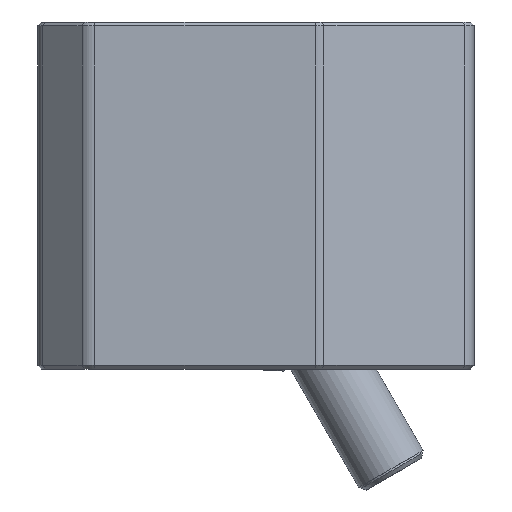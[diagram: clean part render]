
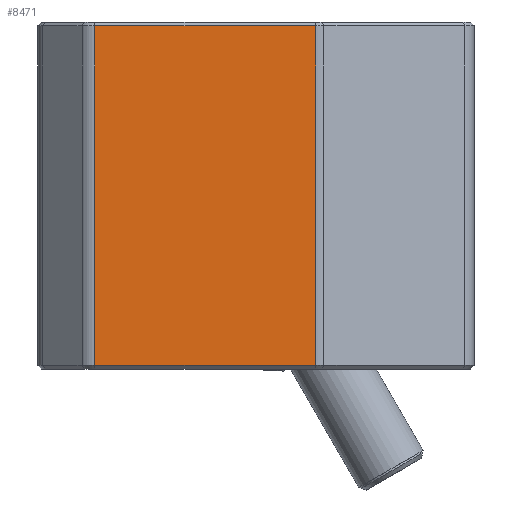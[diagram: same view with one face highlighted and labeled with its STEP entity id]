
A CAD part, left-side view. The second image highlights one B-rep face of the part: STEP entity #8471.
In plain terms, the highlighted planar face has unit normal (-1, 0, 0).
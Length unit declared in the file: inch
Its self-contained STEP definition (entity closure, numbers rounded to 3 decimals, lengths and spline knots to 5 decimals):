
#1490=CARTESIAN_POINT('',(36.81395,-12.63657,-6.884));
#1491=VERTEX_POINT('',#1490);
#1492=CARTESIAN_POINT('',(36.81395,-12.63657,-5.172));
#1493=VERTEX_POINT('',#1492);
#1494=CARTESIAN_POINT('',(36.81395,-12.63657,-6.884));
#1495=DIRECTION('',(0.0,0.0,1.0));
#1496=VECTOR('',#1495,1.712);
#1497=LINE('',#1494,#1496);
#1498=EDGE_CURVE('',#1491,#1493,#1497,.T.);
#2041=CARTESIAN_POINT('',(36.81395,-11.52191,-6.884));
#2042=VERTEX_POINT('',#2041);
#2043=CARTESIAN_POINT('',(36.81395,-12.63657,-6.884));
#2044=DIRECTION('',(0.0,1.0,0.0));
#2045=VECTOR('',#2044,1.11466);
#2046=LINE('',#2043,#2045);
#2047=EDGE_CURVE('',#1491,#2042,#2046,.T.);
#7686=CARTESIAN_POINT('',(36.81395,-11.52191,-5.172));
#7687=VERTEX_POINT('',#7686);
#7694=CARTESIAN_POINT('',(36.81395,-11.52191,-5.172));
#7695=DIRECTION('',(0.0,-1.0,0.0));
#7696=VECTOR('',#7695,1.11466);
#7697=LINE('',#7694,#7696);
#7698=EDGE_CURVE('',#7687,#1493,#7697,.T.);
#8455=CARTESIAN_POINT('',(36.81395,-12.63657,-5.277));
#8456=DIRECTION('',(-1.0,0.0,0.0));
#8457=DIRECTION('',(0.0,0.0,1.0));
#8458=AXIS2_PLACEMENT_3D('',#8455,#8456,#8457);
#8459=PLANE('',#8458);
#8460=ORIENTED_EDGE('',*,*,#7698,.F.);
#8461=CARTESIAN_POINT('',(36.81395,-11.52191,-6.884));
#8462=DIRECTION('',(0.0,0.0,1.0));
#8463=VECTOR('',#8462,1.712);
#8464=LINE('',#8461,#8463);
#8465=EDGE_CURVE('',#2042,#7687,#8464,.T.);
#8466=ORIENTED_EDGE('',*,*,#8465,.F.);
#8467=ORIENTED_EDGE('',*,*,#2047,.F.);
#8468=ORIENTED_EDGE('',*,*,#1498,.T.);
#8469=EDGE_LOOP('',(#8460,#8466,#8467,#8468));
#8470=FACE_OUTER_BOUND('',#8469,.T.);
#8471=ADVANCED_FACE('',(#8470),#8459,.T.);
